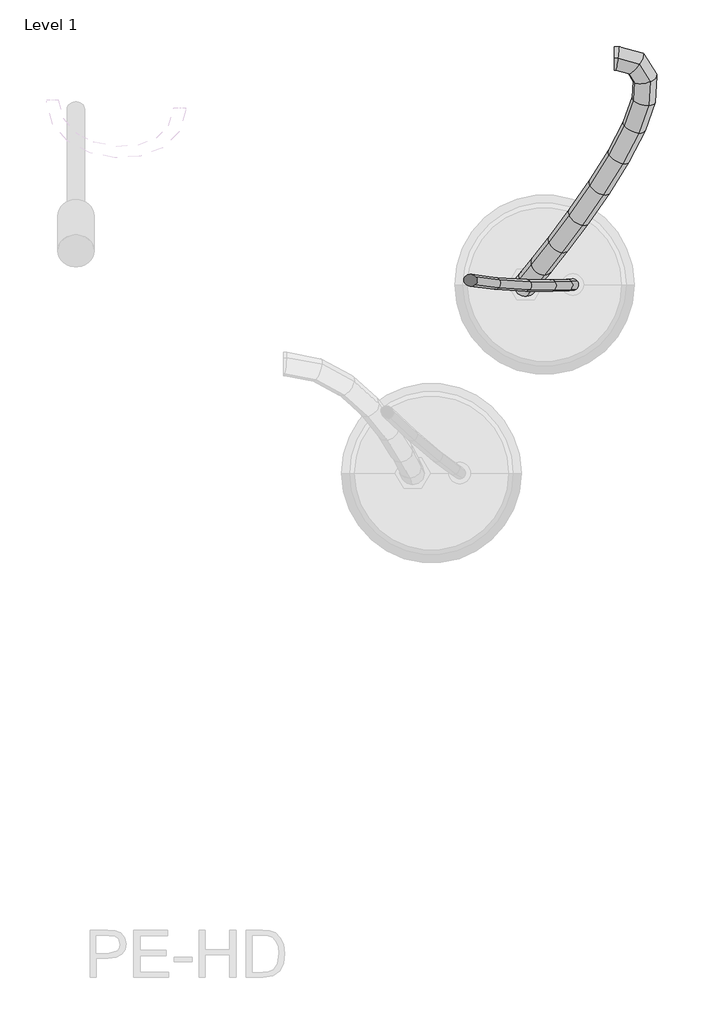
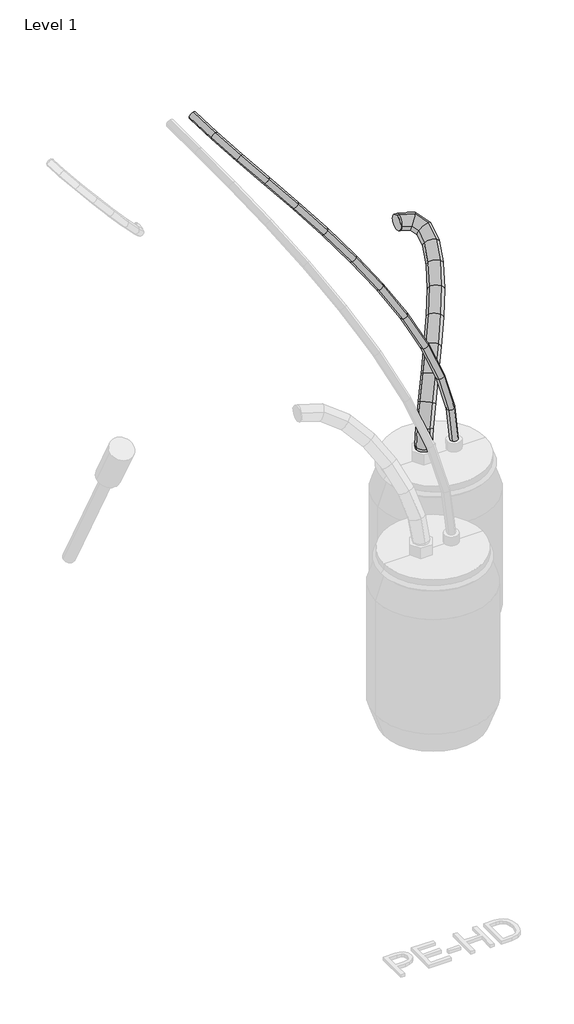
# One storey, part 3 of 6: 2 pipe segments.
"""IFC4 building model written with IfcOpenShell, lengths in millimetres."""

from ifc_helpers import new_model, si_unit, frame, origin, place, context, project, spatial, circle_curve, ellipse_curve, element, save
from ifc_brep_helpers import plane_surface, cylinder_surface, advanced_brep

model = new_model("IFC4")

# Units and contexts
model_context = context("Model", 3, world=origin())
ifc_project = project(units=[si_unit("LENGTHUNIT", "METRE", prefix="MILLI")], contexts=[model_context])

# Site, building, storey
site = spatial("IfcSite", under=ifc_project)
building = spatial("IfcBuilding", under=site)
storey = spatial("IfcBuildingStorey", under=building, Name="Level 1", Elevation=0.0)

# Pipe segments
placement = place(None, origin())
element("IfcPipeSegment", 1, ObjectType="Flex - Round", at=placement, inside=storey, context=model_context, shape_type="AdvancedBrep", body=[
    advanced_brep(
    [(3108.5, 3375.0, 1060.5), (3108.5, 3350.0, 1035.5), (3108.5, 3325.0, 1060.5), (3108.5, 3350.0, 1085.5), (3117.8643562, 3375.0, 1060.5), (3112.9429191, 3350.0, 1035.5), (3111.0264456, 3325.0, 1060.5), (3115.9478827, 3350.0, 1085.5), (2944.9252255, 2871.9321323, 633.6079188), (2921.9321323, 2845.0747745, 633.6079188), (2895.0747745, 2868.0678677, 633.6079188), (2918.0678677, 2894.9252255, 633.6079188), (3169.7238115, 3360.4918416, 1054.124297), (3147.4208919, 3340.3544708, 1031.2612105), (3139.0897616, 3317.1490299, 1057.049841), (3161.3926812, 3337.2864007, 1079.9129274), (3196.5446578, 3317.5509859, 1034.2536114), (3162.8129374, 3315.7114153, 1019.8577487), (3150.5614298, 3298.7825979, 1048.5508581), (3184.2931502, 3300.6221685, 1062.9467208), (3193.1262089, 3263.5064671, 1007.5549999), (3160.2018607, 3274.4311763, 999.4648376), (3148.1859341, 3261.2268161, 1029.9978716), (3181.1102824, 3250.302107, 1038.0880339), (3171.7591396, 3203.6840006, 975.6084981), (3140.7883675, 3220.0782361, 970.4391822), (3129.1071993, 3207.8111159, 1001.4727227), (3160.0779714, 3191.4168803, 1006.6420386), (3138.2799132, 3139.3285265, 937.8633615), (3108.7138647, 3158.4229931, 934.2777585), (3096.9233614, 3145.9457034, 965.1880325), (3126.4894099, 3126.8512368, 968.7736355), (3097.3471232, 3073.717806, 894.6788227), (3068.7507998, 3094.3666344, 892.1162902), (3056.4104266, 3081.0079641, 922.4464454), (3085.00675, 3060.3591357, 925.0089779), (3053.6310996, 3010.867398, 846.7966547), (3025.7219328, 3032.5041496, 844.9867649), (3012.3326643, 3017.6374855, 874.1680651), (3040.2418311, 2996.000734, 875.9779548), (3011.890215, 2955.0674353, 795.187706), (2984.4746931, 2977.3641002, 793.9881649), (2969.3663015, 2960.1992815, 821.0439198), (2996.7818234, 2937.9026165, 822.2434608), (2976.9595093, 2910.7422436, 741.1635252), (2949.8834954, 2933.469726, 740.4890707), (2932.1108977, 2912.9241726, 763.4243376), (2959.1869116, 2890.1966903, 764.0987922), (2953.4757599, 2882.0798045, 686.5138113), (2926.5809374, 2905.0284349, 686.2610124), (2905.3642751, 2880.279324, 701.1814967), (2932.2590976, 2857.3306935, 701.4342955), (2944.9252255, 2871.9321323, 637.1860304), (2918.0678677, 2894.9252255, 637.1493644), (2895.0747745, 2868.0678677, 641.8216718), (2921.9321323, 2845.0747745, 641.8583378)],
    [
        (0, 1, circle_curve(frame((3108.5, 3350.0, 1060.5), z_axis=(-1.0, 0.0, 0.0), x_axis=(0.0, 1.0, 0.0)), 25.0)),
        (1, 2, circle_curve(frame((3108.5, 3350.0, 1060.5), z_axis=(-1.0, 0.0, 0.0), x_axis=(0.0, 1.0, 0.0)), 25.0)),
        (2, 3, circle_curve(frame((3108.5, 3350.0, 1060.5), z_axis=(-1.0, 0.0, 0.0), x_axis=(0.0, 1.0, 0.0)), 25.0)),
        (3, 0, circle_curve(frame((3108.5, 3350.0, 1060.5), z_axis=(-1.0, 0.0, 0.0), x_axis=(0.0, 1.0, 0.0)), 25.0)),
        (0, 4),
        (4, 5, ellipse_curve(frame((3114.4454009, 3350.0, 1060.5), z_axis=(-0.9890259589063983, 0.13525742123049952, 0.05943973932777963), x_axis=(-0.14774184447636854, -0.9054516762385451, -0.39790653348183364)), 25.2773952, 25.0)),
        (5, 1),
        (5, 6, ellipse_curve(frame((3114.4454009, 3350.0, 1060.5), z_axis=(-0.9890259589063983, 0.13525742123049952, 0.05943973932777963), x_axis=(-0.14774184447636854, -0.9054516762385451, -0.39790653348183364)), 25.2773952, 25.0)),
        (6, 2),
        (6, 7, ellipse_curve(frame((3114.4454009, 3350.0, 1060.5), z_axis=(-0.9890259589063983, 0.13525742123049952, 0.05943973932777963), x_axis=(-0.14774184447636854, -0.9054516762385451, -0.39790653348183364)), 25.2773952, 25.0)),
        (7, 3),
        (7, 4, ellipse_curve(frame((3114.4454009, 3350.0, 1060.5), z_axis=(-0.9890259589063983, 0.13525742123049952, 0.05943973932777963), x_axis=(-0.14774184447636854, -0.9054516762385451, -0.39790653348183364)), 25.2773952, 25.0)),
        (8, 9, circle_curve(frame((2920.0, 2870.0, 633.6079188), z_axis=(0.0, 0.0, -1.0), x_axis=(0.9970090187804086, 0.07728529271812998, 0.0)), 25.0)),
        (9, 10, circle_curve(frame((2920.0, 2870.0, 633.6079188), z_axis=(0.0, 0.0, -1.0), x_axis=(0.9970090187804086, 0.07728529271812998, 0.0)), 25.0)),
        (10, 11, circle_curve(frame((2920.0, 2870.0, 633.6079188), z_axis=(0.0, 0.0, -1.0), x_axis=(0.9970090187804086, 0.07728529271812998, 0.0)), 25.0)),
        (11, 8, circle_curve(frame((2920.0, 2870.0, 633.6079188), z_axis=(0.0, 0.0, -1.0), x_axis=(0.9970090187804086, 0.07728529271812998, 0.0)), 25.0)),
        (4, 12),
        (12, 13, ellipse_curve(frame((3154.4067866, 3338.8204358, 1055.587069), z_axis=(-0.7801933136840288, 0.5689740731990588, 0.2599363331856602), x_axis=(-0.625497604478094, -0.7048473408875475, -0.33457879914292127)), 26.9128996, 25.0)),
        (13, 5),
        (13, 14, ellipse_curve(frame((3154.4067866, 3338.8204358, 1055.587069), z_axis=(-0.7801933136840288, 0.5689740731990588, 0.2599363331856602), x_axis=(-0.625497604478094, -0.7048473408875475, -0.33457879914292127)), 26.9128996, 25.0)),
        (14, 6),
        (14, 15, ellipse_curve(frame((3154.4067866, 3338.8204358, 1055.587069), z_axis=(-0.7801933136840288, 0.5689740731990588, 0.2599363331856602), x_axis=(-0.625497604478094, -0.7048473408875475, -0.33457879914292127)), 26.9128996, 25.0)),
        (15, 7),
        (15, 12, ellipse_curve(frame((3154.4067866, 3338.8204358, 1055.587069), z_axis=(-0.7801933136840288, 0.5689740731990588, 0.2599363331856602), x_axis=(-0.625497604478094, -0.7048473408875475, -0.33457879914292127)), 26.9128996, 25.0)),
        (12, 16),
        (16, 17, ellipse_curve(frame((3173.5530438, 3308.1667919, 1041.4022347), z_axis=(-0.2275270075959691, 0.8780973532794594, 0.42092338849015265), x_axis=(-0.9729181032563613, -0.18689635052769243, -0.13601514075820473)), 26.0617792, 25.0)),
        (17, 13),
        (17, 18, ellipse_curve(frame((3173.5530438, 3308.1667919, 1041.4022347), z_axis=(-0.2275270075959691, 0.8780973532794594, 0.42092338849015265), x_axis=(-0.9729181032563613, -0.18689635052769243, -0.13601514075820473)), 26.0617792, 25.0)),
        (18, 14),
        (18, 19, ellipse_curve(frame((3173.5530438, 3308.1667919, 1041.4022347), z_axis=(-0.2275270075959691, 0.8780973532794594, 0.42092338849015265), x_axis=(-0.9729181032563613, -0.18689635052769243, -0.13601514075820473)), 26.0617792, 25.0)),
        (19, 15),
        (19, 16, ellipse_curve(frame((3173.5530438, 3308.1667919, 1041.4022347), z_axis=(-0.2275270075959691, 0.8780973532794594, 0.42092338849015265), x_axis=(-0.9729181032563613, -0.18689635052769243, -0.13601514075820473)), 26.0617792, 25.0)),
        (16, 20),
        (20, 21, ellipse_curve(frame((3170.6560715, 3262.3666416, 1018.7764358), z_axis=(0.17997033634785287, 0.8750836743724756, 0.44926522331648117), x_axis=(-0.9761329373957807, 0.21531376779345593, -0.02836317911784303)), 25.1973857, 25.0)),
        (21, 17),
        (21, 22, ellipse_curve(frame((3170.6560715, 3262.3666416, 1018.7764358), z_axis=(0.17997033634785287, 0.8750836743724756, 0.44926522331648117), x_axis=(-0.9761329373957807, 0.21531376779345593, -0.02836317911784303)), 25.1973857, 25.0)),
        (22, 18),
        (22, 23, ellipse_curve(frame((3170.6560715, 3262.3666416, 1018.7764358), z_axis=(0.17997033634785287, 0.8750836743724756, 0.44926522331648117), x_axis=(-0.9761329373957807, 0.21531376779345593, -0.02836317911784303)), 25.1973857, 25.0)),
        (23, 19),
        (23, 20, ellipse_curve(frame((3170.6560715, 3262.3666416, 1018.7764358), z_axis=(0.17997033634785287, 0.8750836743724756, 0.44926522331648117), x_axis=(-0.9761329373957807, 0.21531376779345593, -0.02836317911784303)), 25.1973857, 25.0)),
        (20, 24),
        (24, 25, ellipse_curve(frame((3150.4331694, 3205.7475582, 988.5406104), z_axis=(0.35561974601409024, 0.815682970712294, 0.45628487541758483), x_axis=(-0.8902380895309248, 0.4442910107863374, -0.10040737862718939)), 25.0468967, 25.0)),
        (25, 21),
        (25, 26, ellipse_curve(frame((3150.4331694, 3205.7475582, 988.5406104), z_axis=(0.35561974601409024, 0.815682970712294, 0.45628487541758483), x_axis=(-0.8902380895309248, 0.4442910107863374, -0.10040737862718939)), 25.0468967, 25.0)),
        (26, 22),
        (26, 27, ellipse_curve(frame((3150.4331694, 3205.7475582, 988.5406104), z_axis=(0.35561974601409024, 0.815682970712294, 0.45628487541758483), x_axis=(-0.8902380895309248, 0.4442910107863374, -0.10040737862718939)), 25.0468967, 25.0)),
        (27, 23),
        (27, 24, ellipse_curve(frame((3150.4331694, 3205.7475582, 988.5406104), z_axis=(0.35561974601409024, 0.815682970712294, 0.45628487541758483), x_axis=(-0.8902380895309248, 0.4442910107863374, -0.10040737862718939)), 25.0468967, 25.0)),
        (24, 28),
        (28, 29, ellipse_curve(frame((3117.6016373, 3142.637115, 951.525697), z_axis=(0.4360760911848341, 0.7644016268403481, 0.47489766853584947), x_axis=(-0.7050996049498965, 0.6181300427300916, -0.34749071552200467)), 25.0174958, 25.0)),
        (29, 25),
        (29, 30, ellipse_curve(frame((3117.6016373, 3142.637115, 951.525697), z_axis=(0.4360760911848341, 0.7644016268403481, 0.47489766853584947), x_axis=(-0.7050996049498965, 0.6181300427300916, -0.34749071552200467)), 25.0174958, 25.0)),
        (30, 26),
        (30, 31, ellipse_curve(frame((3117.6016373, 3142.637115, 951.525697), z_axis=(0.4360760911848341, 0.7644016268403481, 0.47489766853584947), x_axis=(-0.7050996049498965, 0.6181300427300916, -0.34749071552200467)), 25.0174958, 25.0)),
        (31, 27),
        (31, 28, ellipse_curve(frame((3117.6016373, 3142.637115, 951.525697), z_axis=(0.4360760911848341, 0.7644016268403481, 0.47489766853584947), x_axis=(-0.7050996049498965, 0.6181300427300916, -0.34749071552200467)), 25.0174958, 25.0)),
        (28, 32),
        (32, 33, ellipse_curve(frame((3076.8787749, 3077.362885, 908.562634), z_axis=(0.47338500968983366, 0.7187754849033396, 0.5091840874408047), x_axis=(-0.33499970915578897, 0.6815272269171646, -0.650611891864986)), 25.0134723, 25.0)),
        (33, 29),
        (33, 34, ellipse_curve(frame((3076.8787749, 3077.362885, 908.562634), z_axis=(0.47338500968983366, 0.7187754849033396, 0.5091840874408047), x_axis=(-0.33499970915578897, 0.6815272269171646, -0.650611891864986)), 25.0134723, 25.0)),
        (34, 30),
        (34, 35, ellipse_curve(frame((3076.8787749, 3077.362885, 908.562634), z_axis=(0.47338500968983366, 0.7187754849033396, 0.5091840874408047), x_axis=(-0.33499970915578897, 0.6815272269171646, -0.650611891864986)), 25.0134723, 25.0)),
        (35, 31),
        (35, 32, ellipse_curve(frame((3076.8787749, 3077.362885, 908.562634), z_axis=(0.47338500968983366, 0.7187754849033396, 0.5091840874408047), x_axis=(-0.33499970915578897, 0.6815272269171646, -0.650611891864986)), 25.0134723, 25.0)),
        (32, 36),
        (36, 37, ellipse_curve(frame((3032.981882, 3014.2524418, 860.4823599), z_axis=(0.48316315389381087, 0.6703415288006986, 0.5632012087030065), x_axis=(0.03308704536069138, 0.6288291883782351, -0.7768391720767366)), 25.0218384, 25.0)),
        (37, 33),
        (37, 38, ellipse_curve(frame((3032.981882, 3014.2524418, 860.4823599), z_axis=(0.48316315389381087, 0.6703415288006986, 0.5632012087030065), x_axis=(0.03308704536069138, 0.6288291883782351, -0.7768391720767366)), 25.0218384, 25.0)),
        (38, 34),
        (38, 39, ellipse_curve(frame((3032.981882, 3014.2524418, 860.4823599), z_axis=(0.48316315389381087, 0.6703415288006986, 0.5632012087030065), x_axis=(0.03308704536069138, 0.6288291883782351, -0.7768391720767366)), 25.0218384, 25.0)),
        (39, 35),
        (39, 36, ellipse_curve(frame((3032.981882, 3014.2524418, 860.4823599), z_axis=(0.48316315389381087, 0.6703415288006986, 0.5632012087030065), x_axis=(0.03308704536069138, 0.6288291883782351, -0.7768391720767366)), 25.0218384, 25.0)),
        (36, 40),
        (40, 41, ellipse_curve(frame((2990.6282582, 2957.6333584, 808.1158129), z_axis=(0.46518266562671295, 0.6066604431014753, 0.6446457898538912), x_axis=(0.26862880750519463, 0.5971515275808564, -0.7558099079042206)), 25.0509419, 25.0)),
        (41, 37),
        (41, 42, ellipse_curve(frame((2990.6282582, 2957.6333584, 808.1158129), z_axis=(0.46518266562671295, 0.6066604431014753, 0.6446457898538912), x_axis=(0.26862880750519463, 0.5971515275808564, -0.7558099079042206)), 25.0509419, 25.0)),
        (42, 38),
        (42, 43, ellipse_curve(frame((2990.6282582, 2957.6333584, 808.1158129), z_axis=(0.46518266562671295, 0.6066604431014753, 0.6446457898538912), x_axis=(0.26862880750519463, 0.5971515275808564, -0.7558099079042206)), 25.0509419, 25.0)),
        (43, 39),
        (43, 40, ellipse_curve(frame((2990.6282582, 2957.6333584, 808.1158129), z_axis=(0.46518266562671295, 0.6066604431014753, 0.6446457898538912), x_axis=(0.26862880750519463, 0.5971515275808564, -0.7558099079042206)), 25.0509419, 25.0)),
        (40, 44),
        (44, 45, ellipse_curve(frame((2954.5352035, 2911.8332081, 752.2939314), z_axis=(0.4036504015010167, 0.5035507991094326, 0.7638736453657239), x_axis=(0.43270086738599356, 0.6305676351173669, -0.6443247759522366)), 25.1407571, 25.0)),
        (45, 41),
        (45, 46, ellipse_curve(frame((2954.5352035, 2911.8332081, 752.2939314), z_axis=(0.4036504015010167, 0.5035507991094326, 0.7638736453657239), x_axis=(0.43270086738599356, 0.6305676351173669, -0.6443247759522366)), 25.1407571, 25.0)),
        (46, 42),
        (46, 47, ellipse_curve(frame((2954.5352035, 2911.8332081, 752.2939314), z_axis=(0.4036504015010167, 0.5035507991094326, 0.7638736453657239), x_axis=(0.43270086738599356, 0.6305676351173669, -0.6443247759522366)), 25.1407571, 25.0)),
        (47, 43),
        (47, 44, ellipse_curve(frame((2954.5352035, 2911.8332081, 752.2939314), z_axis=(0.4036504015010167, 0.5035507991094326, 0.7638736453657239), x_axis=(0.43270086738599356, 0.6305676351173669, -0.6443247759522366)), 25.1407571, 25.0)),
        (44, 48),
        (48, 49, ellipse_curve(frame((2929.4200175, 2881.1795642, 693.847654), z_axis=(0.2651977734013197, 0.320816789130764, 0.9092561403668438), x_axis=(0.5678783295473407, 0.7101398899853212, -0.41619171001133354)), 25.3507508, 25.0)),
        (49, 45),
        (49, 50, ellipse_curve(frame((2929.4200175, 2881.1795642, 693.847654), z_axis=(0.2651977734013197, 0.320816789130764, 0.9092561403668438), x_axis=(0.5678783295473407, 0.7101398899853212, -0.41619171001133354)), 25.3507508, 25.0)),
        (50, 46),
        (50, 51, ellipse_curve(frame((2929.4200175, 2881.1795642, 693.847654), z_axis=(0.2651977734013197, 0.320816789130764, 0.9092561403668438), x_axis=(0.5678783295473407, 0.7101398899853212, -0.41619171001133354)), 25.3507508, 25.0)),
        (51, 47),
        (51, 48, ellipse_curve(frame((2929.4200175, 2881.1795642, 693.847654), z_axis=(0.2651977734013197, 0.320816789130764, 0.9092561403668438), x_axis=(0.5678783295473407, 0.7101398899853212, -0.41619171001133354)), 25.3507508, 25.0)),
        (48, 52),
        (52, 53, ellipse_curve(frame((2920.0, 2870.0, 639.5038511), z_axis=(0.08442278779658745, 0.1001919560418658, 0.9913800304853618), x_axis=(0.6388073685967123, 0.7581289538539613, -0.13101769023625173)), 25.217373, 25.0)),
        (53, 49),
        (53, 54, ellipse_curve(frame((2920.0, 2870.0, 639.5038511), z_axis=(0.08442278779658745, 0.1001919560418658, 0.9913800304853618), x_axis=(0.6388073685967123, 0.7581289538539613, -0.13101769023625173)), 25.217373, 25.0)),
        (54, 50),
        (54, 55, ellipse_curve(frame((2920.0, 2870.0, 639.5038511), z_axis=(0.08442278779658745, 0.1001919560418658, 0.9913800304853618), x_axis=(0.6388073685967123, 0.7581289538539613, -0.13101769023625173)), 25.217373, 25.0)),
        (55, 51),
        (55, 52, ellipse_curve(frame((2920.0, 2870.0, 639.5038511), z_axis=(0.08442278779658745, 0.1001919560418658, 0.9913800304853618), x_axis=(0.6388073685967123, 0.7581289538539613, -0.13101769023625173)), 25.217373, 25.0)),
        (52, 8),
        (11, 53),
        (10, 54),
        (9, 55),
    ],
    [
        plane_surface(frame((3108.5, 3350.0, 1035.5), z_axis=(-1.0, 0.0, 0.0), x_axis=(0.0, 1.0, 0.0))),
        cylinder_surface(frame((3108.5, 3350.0, 1060.5), z_axis=(-1.0, 0.0, 0.0), x_axis=(0.0, 1.0, 0.0)), 25.0),
        plane_surface(frame((2920.0, 2845.0, 633.6079188), z_axis=(0.0, 0.0, -1.0), x_axis=(-1.0, 0.0, 0.0))),
        cylinder_surface(frame((3114.4454009, 3350.0, 1060.5), z_axis=(-0.9563446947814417, 0.2675462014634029, 0.11757489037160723), x_axis=(0.2675462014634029, 0.9634108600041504, -0.01607933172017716)), 25.0),
        cylinder_surface(frame((3154.4067866, 3338.8204358, 1055.587069), z_axis=(-0.4931336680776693, 0.7895195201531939, 0.3653465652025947), x_axis=(0.7906477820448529, 0.5819268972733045, -0.19036063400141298)), 25.0),
        cylinder_surface(frame((3173.5530438, 3308.1667919, 1041.4022347), z_axis=(0.05661894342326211, 0.8951263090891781, 0.442202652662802), x_axis=(0.9048515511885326, 0.14117909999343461, -0.40163681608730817)), 25.0),
        cylinder_surface(frame((3170.6560715, 3262.3666416, 1018.7764358), z_axis=(0.30050210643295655, 0.8413309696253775, 0.4492890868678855), x_axis=(0.8667163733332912, -0.04424852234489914, -0.4968347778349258)), 25.0),
        cylinder_surface(frame((3150.4331694, 3205.7475582, 988.5406104), z_axis=(0.40940569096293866, 0.7869804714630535, 0.4615720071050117), x_axis=(0.8344044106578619, -0.11836228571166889, -0.5382932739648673)), 25.0),
        cylinder_surface(frame((3117.6016373, 3142.637115, 951.525697), z_axis=(0.4621365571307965, 0.7407536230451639, 0.48755909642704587), x_axis=(0.8189208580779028, -0.1455035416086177, -0.5551552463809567)), 25.0),
        cylinder_surface(frame((3076.8787749, 3077.362885, 908.562634), z_axis=(0.48412352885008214, 0.69602307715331, 0.5302605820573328), x_axis=(0.8185381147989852, -0.14608468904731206, -0.5555669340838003)), 25.0),
        cylinder_surface(frame((3032.981882, 3014.2524418, 860.4823599), z_axis=(0.4813593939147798, 0.6434898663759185, 0.595158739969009), x_axis=(0.8333568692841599, -0.12552511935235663, -0.5382933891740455)), 25.0),
        cylinder_surface(frame((2990.6282582, 2957.6333584, 808.1158129), z_axis=(0.4471140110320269, 0.5673636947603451, 0.6915110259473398), x_axis=(0.8663816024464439, -0.08245644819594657, -0.4925280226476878)), 25.0),
        cylinder_surface(frame((2954.5352035, 2911.8332081, 752.2939314), z_axis=(0.35566690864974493, 0.4340993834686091, 0.827682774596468), x_axis=(0.9213062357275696, -0.013938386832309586, -0.38858788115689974)), 25.0),
        cylinder_surface(frame((2929.4200175, 2881.1795642, 693.847654), z_axis=(0.1673901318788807, 0.19865660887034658, 0.9656687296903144), x_axis=(0.981489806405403, 0.05886727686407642, -0.1822427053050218)), 25.0),
        cylinder_surface(frame((2920.0, 2870.0, 639.5038511), z_axis=(0.0, 0.0, 1.0), x_axis=(0.9970090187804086, 0.07728529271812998, 0.0)), 25.0),
    ],
    [
        (0, [[1, 2, 3, 4]]),
        (1, [[-1, 5, 6, 7]]),
        (1, [[-2, -7, 8, 9]]),
        (1, [[-3, -9, 10, 11]]),
        (1, [[-4, -11, 12, -5]]),
        (2, [[13, 14, 15, 16]]),
        (3, [[-6, 17, 18, 19]]),
        (3, [[-8, -19, 20, 21]]),
        (3, [[-10, -21, 22, 23]]),
        (3, [[-12, -23, 24, -17]]),
        (4, [[-18, 25, 26, 27]]),
        (4, [[-20, -27, 28, 29]]),
        (4, [[-22, -29, 30, 31]]),
        (4, [[-24, -31, 32, -25]]),
        (5, [[-26, 33, 34, 35]]),
        (5, [[-28, -35, 36, 37]]),
        (5, [[-30, -37, 38, 39]]),
        (5, [[-32, -39, 40, -33]]),
        (6, [[-34, 41, 42, 43]]),
        (6, [[-36, -43, 44, 45]]),
        (6, [[-38, -45, 46, 47]]),
        (6, [[-40, -47, 48, -41]]),
        (7, [[-42, 49, 50, 51]]),
        (7, [[-44, -51, 52, 53]]),
        (7, [[-46, -53, 54, 55]]),
        (7, [[-48, -55, 56, -49]]),
        (8, [[-50, 57, 58, 59]]),
        (8, [[-52, -59, 60, 61]]),
        (8, [[-54, -61, 62, 63]]),
        (8, [[-56, -63, 64, -57]]),
        (9, [[-58, 65, 66, 67]]),
        (9, [[-60, -67, 68, 69]]),
        (9, [[-62, -69, 70, 71]]),
        (9, [[-64, -71, 72, -65]]),
        (10, [[-66, 73, 74, 75]]),
        (10, [[-68, -75, 76, 77]]),
        (10, [[-70, -77, 78, 79]]),
        (10, [[-72, -79, 80, -73]]),
        (11, [[-74, 81, 82, 83]]),
        (11, [[-76, -83, 84, 85]]),
        (11, [[-78, -85, 86, 87]]),
        (11, [[-80, -87, 88, -81]]),
        (12, [[-82, 89, 90, 91]]),
        (12, [[-84, -91, 92, 93]]),
        (12, [[-86, -93, 94, 95]]),
        (12, [[-88, -95, 96, -89]]),
        (13, [[-90, 97, 98, 99]]),
        (13, [[-92, -99, 100, 101]]),
        (13, [[-94, -101, 102, 103]]),
        (13, [[-96, -103, 104, -97]]),
        (14, [[-98, 105, -16, 106]]),
        (14, [[-100, -106, -15, 107]]),
        (14, [[-102, -107, -14, 108]]),
        (14, [[-104, -108, -13, -105]]),
    ],
),
])
element("IfcPipeSegment", 2, ObjectType="Flex - Round", at=placement, inside=storey, context=model_context, shape_type="AdvancedBrep", body=[
    advanced_brep(
    [(2397.4063751, 3263.5270422, 1740.0), (2384.8022058, 3263.6069691, 1727.6053024), (2372.5936249, 3260.4729578, 1740.0), (2385.1977942, 3260.3930309, 1752.3946976), (2409.7052856, 3163.605185, 1726.8488936), (2397.0821358, 3163.8393179, 1714.4744917), (2385.2831404, 3157.3776512, 1726.4312235), (2397.9062902, 3157.1435183, 1738.8056254), (3029.5901614, 2877.9427374, 628.7264329), (3027.9042558, 2860.3483018, 628.4205578), (3010.4098386, 2862.0572626, 626.5431074), (3012.0957442, 2879.6516982, 626.8489825), (2443.2082781, 3083.5280024, 1689.9630517), (2430.4434115, 3084.1008597, 1677.7446759), (2420.8657959, 3072.3297618, 1687.2557318), (2433.6306625, 3071.7569045, 1699.4741075), (2494.2774595, 3019.3801596, 1631.6066771), (2481.2444729, 3020.2898016, 1619.6946801), (2474.1600405, 3005.3870239, 1626.3567941), (2487.1930271, 3004.4773819, 1638.268791), (2558.8793222, 2969.5473767, 1554.4223564), (2545.5008168, 2970.723546, 1542.9231745), (2540.3799371, 2954.306117, 1547.2392961), (2553.7584424, 2953.1299477, 1558.7384779), (2632.6246275, 2932.4938759, 1461.4335124), (2618.8519849, 2933.8680804, 1450.4313163), (2615.0952799, 2916.7652186, 1453.0272872), (2628.8679225, 2915.3910141, 1464.0294833), (2711.0282834, 2906.5058762, 1355.7758673), (2696.8152409, 2908.0260575, 1345.3671591), (2693.9717166, 2890.6205091, 1346.7325175), (2708.1847591, 2889.1003278, 1357.1412256), (2789.6181469, 2889.7522644, 1240.5711778), (2774.9084734, 2891.3783164, 1230.8904798), (2772.6619457, 2873.8455015, 1231.3807024), (2787.3716192, 2872.2194495, 1241.0614004), (2863.9471177, 2880.3487193, 1118.9031436), (2848.6707529, 2882.0464648, 1110.1500543), (2846.7936231, 2864.4669165, 1110.0356147), (2862.0699878, 2862.769171, 1118.788704), (2929.5835705, 2876.3884885, 993.8121088), (2913.6604269, 2878.125258, 986.2916613), (2911.9789295, 2860.533906, 985.8043823), (2927.9020731, 2858.7971366, 993.3248297), (2982.0942737, 2875.9547949, 868.2836775), (2965.4561846, 2877.6974692, 862.472329), (2963.8316522, 2860.1056468, 861.8488734), (2980.4697413, 2858.3629725, 867.6602218), (3017.0072747, 2877.1230494, 745.2298876), (2999.6725454, 2878.8424128, 741.8739057), (2998.0042994, 2861.2491276, 741.4045222), (3015.3390287, 2859.5297642, 744.7605041)],
    [
        (0, 1, circle_curve(frame((2385.0, 3262.0, 1740.0), z_axis=(-0.12113425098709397, 0.9841489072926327, 0.12952768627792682), x_axis=(0.992510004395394, 0.12216337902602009, 0.0)), 12.5)),
        (1, 2, circle_curve(frame((2385.0, 3262.0, 1740.0), z_axis=(-0.12113425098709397, 0.9841489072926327, 0.12952768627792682), x_axis=(0.992510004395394, 0.12216337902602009, 0.0)), 12.5)),
        (2, 3, circle_curve(frame((2385.0, 3262.0, 1740.0), z_axis=(-0.12113425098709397, 0.9841489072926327, 0.12952768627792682), x_axis=(0.992510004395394, 0.12216337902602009, 0.0)), 12.5)),
        (3, 0, circle_curve(frame((2385.0, 3262.0, 1740.0), z_axis=(-0.12113425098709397, 0.9841489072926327, 0.12952768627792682), x_axis=(0.992510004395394, 0.12216337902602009, 0.0)), 12.5)),
        (0, 4),
        (4, 5, ellipse_curve(frame((2397.494213, 3160.4914181, 1726.6400586), z_axis=(-0.2425057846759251, 0.9332446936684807, 0.26503827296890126), x_axis=(0.6223746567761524, 0.35922238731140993, -0.695420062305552)), 12.7270856, 12.5)),
        (5, 1),
        (5, 6, ellipse_curve(frame((2397.494213, 3160.4914181, 1726.6400586), z_axis=(-0.2425057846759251, 0.9332446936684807, 0.26503827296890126), x_axis=(0.6223746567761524, 0.35922238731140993, -0.695420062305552)), 12.7270856, 12.5)),
        (6, 2),
        (6, 7, ellipse_curve(frame((2397.494213, 3160.4914181, 1726.6400586), z_axis=(-0.2425057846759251, 0.9332446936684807, 0.26503827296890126), x_axis=(0.6223746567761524, 0.35922238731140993, -0.695420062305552)), 12.7270856, 12.5)),
        (7, 3),
        (7, 4, ellipse_curve(frame((2397.494213, 3160.4914181, 1726.6400586), z_axis=(-0.2425057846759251, 0.9332446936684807, 0.26503827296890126), x_axis=(0.6223746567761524, 0.35922238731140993, -0.695420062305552)), 12.7270856, 12.5)),
        (8, 9, circle_curve(frame((3020.0, 2870.0, 627.6347701), z_axis=(0.10737730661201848, 0.0069948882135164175, -0.9941937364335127), x_axis=(0.7672129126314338, 0.6354189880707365, 0.08733301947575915)), 12.5)),
        (9, 10, circle_curve(frame((3020.0, 2870.0, 627.6347701), z_axis=(0.10737730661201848, 0.0069948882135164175, -0.9941937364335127), x_axis=(0.7672129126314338, 0.6354189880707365, 0.08733301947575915)), 12.5)),
        (10, 11, circle_curve(frame((3020.0, 2870.0, 627.6347701), z_axis=(0.10737730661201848, 0.0069948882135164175, -0.9941937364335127), x_axis=(0.7672129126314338, 0.6354189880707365, 0.08733301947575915)), 12.5)),
        (11, 8, circle_curve(frame((3020.0, 2870.0, 627.6347701), z_axis=(0.10737730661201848, 0.0069948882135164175, -0.9941937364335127), x_axis=(0.7672129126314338, 0.6354189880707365, 0.08733301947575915)), 12.5)),
        (4, 12),
        (12, 13, ellipse_curve(frame((2432.037037, 3077.9288821, 1688.6093917), z_axis=(-0.4370292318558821, 0.7530321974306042, 0.4918820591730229), x_axis=(0.47293887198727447, 0.6575576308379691, -0.5864697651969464)), 12.6650768, 12.5)),
        (13, 5),
        (13, 14, ellipse_curve(frame((2432.037037, 3077.9288821, 1688.6093917), z_axis=(-0.4370292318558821, 0.7530321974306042, 0.4918820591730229), x_axis=(0.47293887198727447, 0.6575576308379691, -0.5864697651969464)), 12.6650768, 12.5)),
        (14, 6),
        (14, 15, ellipse_curve(frame((2432.037037, 3077.9288821, 1688.6093917), z_axis=(-0.4370292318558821, 0.7530321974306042, 0.4918820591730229), x_axis=(0.47293887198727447, 0.6575576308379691, -0.5864697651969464)), 12.6650768, 12.5)),
        (15, 7),
        (15, 12, ellipse_curve(frame((2432.037037, 3077.9288821, 1688.6093917), z_axis=(-0.4370292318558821, 0.7530321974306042, 0.4918820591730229), x_axis=(0.47293887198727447, 0.6575576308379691, -0.5864697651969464)), 12.6650768, 12.5)),
        (12, 16),
        (16, 17, ellipse_curve(frame((2484.21875, 3012.3835918, 1628.9817356), z_axis=(-0.5449861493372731, 0.5442082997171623, 0.6378302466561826), x_axis=(0.2925443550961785, 0.8363441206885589, -0.463623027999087)), 12.5846651, 12.5)),
        (17, 13),
        (17, 18, ellipse_curve(frame((2484.21875, 3012.3835918, 1628.9817356), z_axis=(-0.5449861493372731, 0.5442082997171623, 0.6378302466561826), x_axis=(0.2925443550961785, 0.8363441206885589, -0.463623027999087)), 12.5846651, 12.5)),
        (18, 14),
        (18, 19, ellipse_curve(frame((2484.21875, 3012.3835918, 1628.9817356), z_axis=(-0.5449861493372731, 0.5442082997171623, 0.6378302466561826), x_axis=(0.2925443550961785, 0.8363441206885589, -0.463623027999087)), 12.5846651, 12.5)),
        (19, 15),
        (19, 16, ellipse_curve(frame((2484.21875, 3012.3835918, 1628.9817356), z_axis=(-0.5449861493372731, 0.5442082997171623, 0.6378302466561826), x_axis=(0.2925443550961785, 0.8363441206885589, -0.463623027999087)), 12.5846651, 12.5)),
        (16, 20),
        (20, 21, ellipse_curve(frame((2549.6296296, 2961.9267469, 1550.8308262), z_axis=(-0.5860170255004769, 0.3720347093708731, 0.7198431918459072), x_axis=(0.11294775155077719, 0.9171992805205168, -0.3820841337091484)), 12.5396023, 12.5)),
        (21, 17),
        (21, 22, ellipse_curve(frame((2549.6296296, 2961.9267469, 1550.8308262), z_axis=(-0.5860170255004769, 0.3720347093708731, 0.7198431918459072), x_axis=(0.11294775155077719, 0.9171992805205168, -0.3820841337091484)), 12.5396023, 12.5)),
        (22, 18),
        (22, 23, ellipse_curve(frame((2549.6296296, 2961.9267469, 1550.8308262), z_axis=(-0.5860170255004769, 0.3720347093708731, 0.7198431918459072), x_axis=(0.11294775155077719, 0.9171992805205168, -0.3820841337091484)), 12.5396023, 12.5)),
        (23, 19),
        (23, 20, ellipse_curve(frame((2549.6296296, 2961.9267469, 1550.8308262), z_axis=(-0.5860170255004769, 0.3720347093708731, 0.7198431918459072), x_axis=(0.11294775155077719, 0.9171992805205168, -0.3820841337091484)), 12.5396023, 12.5)),
        (20, 24),
        (24, 25, ellipse_curve(frame((2623.8599537, 2924.6295472, 1457.2303998), z_axis=(-0.5897990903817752, 0.2462864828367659, 0.7690773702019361), x_axis=(-0.07612975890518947, 0.9311599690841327, -0.3565744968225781)), 12.519629, 12.5)),
        (25, 21),
        (25, 26, ellipse_curve(frame((2623.8599537, 2924.6295472, 1457.2303998), z_axis=(-0.5897990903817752, 0.2462864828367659, 0.7690773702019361), x_axis=(-0.07612975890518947, 0.9311599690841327, -0.3565744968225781)), 12.519629, 12.5)),
        (26, 22),
        (26, 27, ellipse_curve(frame((2623.8599537, 2924.6295472, 1457.2303998), z_axis=(-0.5897990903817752, 0.2462864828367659, 0.7690773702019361), x_axis=(-0.07612975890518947, 0.9311599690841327, -0.3565744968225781)), 12.519629, 12.5)),
        (27, 23),
        (27, 24, ellipse_curve(frame((2623.8599537, 2924.6295472, 1457.2303998), z_axis=(-0.5897990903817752, 0.2462864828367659, 0.7690773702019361), x_axis=(-0.07612975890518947, 0.9311599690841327, -0.3565744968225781)), 12.519629, 12.5)),
        (24, 28),
        (28, 29, ellipse_curve(frame((2702.5, 2898.5631927, 1351.2541924), z_axis=(-0.5725817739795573, 0.15666885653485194, 0.8047390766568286), x_axis=(-0.29520951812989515, 0.8763307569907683, -0.3806517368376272)), 12.5113086, 12.5)),
        (29, 25),
        (29, 30, ellipse_curve(frame((2702.5, 2898.5631927, 1351.2541924), z_axis=(-0.5725817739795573, 0.15666885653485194, 0.8047390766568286), x_axis=(-0.29520951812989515, 0.8763307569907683, -0.3806517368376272)), 12.5113086, 12.5)),
        (30, 26),
        (30, 31, ellipse_curve(frame((2702.5, 2898.5631927, 1351.2541924), z_axis=(-0.5725817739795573, 0.15666885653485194, 0.8047390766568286), x_axis=(-0.29520951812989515, 0.8763307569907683, -0.3806517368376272)), 12.5113086, 12.5)),
        (31, 27),
        (31, 28, ellipse_curve(frame((2702.5, 2898.5631927, 1351.2541924), z_axis=(-0.5725817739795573, 0.15666885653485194, 0.8047390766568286), x_axis=(-0.29520951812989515, 0.8763307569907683, -0.3806517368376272)), 12.5113086, 12.5)),
        (28, 32),
        (32, 33, ellipse_curve(frame((2781.1400463, 2881.798883, 1235.9759401), z_axis=(-0.540220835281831, 0.09260630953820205, 0.8364122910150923), x_axis=(-0.5357883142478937, 0.7285869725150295, -0.42672228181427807)), 12.5084223, 12.5)),
        (33, 29),
        (33, 34, ellipse_curve(frame((2781.1400463, 2881.798883, 1235.9759401), z_axis=(-0.540220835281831, 0.09260630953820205, 0.8364122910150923), x_axis=(-0.5357883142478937, 0.7285869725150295, -0.42672228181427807)), 12.5084223, 12.5)),
        (34, 30),
        (34, 35, ellipse_curve(frame((2781.1400463, 2881.798883, 1235.9759401), z_axis=(-0.540220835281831, 0.09260630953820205, 0.8364122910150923), x_axis=(-0.5357883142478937, 0.7285869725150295, -0.42672228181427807)), 12.5084223, 12.5)),
        (35, 31),
        (35, 32, ellipse_curve(frame((2781.1400463, 2881.798883, 1235.9759401), z_axis=(-0.540220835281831, 0.09260630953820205, 0.8364122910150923), x_axis=(-0.5357883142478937, 0.7285869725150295, -0.42672228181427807)), 12.5084223, 12.5)),
        (32, 36),
        (36, 37, ellipse_curve(frame((2855.3703704, 2872.4078179, 1114.4693791), z_axis=(-0.49267341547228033, 0.0469505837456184, 0.8689468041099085), x_axis=(-0.7404770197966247, 0.5019225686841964, -0.4469535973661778)), 12.5088661, 12.5)),
        (37, 33),
        (37, 38, ellipse_curve(frame((2855.3703704, 2872.4078179, 1114.4693791), z_axis=(-0.49267341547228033, 0.0469505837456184, 0.8689468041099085), x_axis=(-0.7404770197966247, 0.5019225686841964, -0.4469535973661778)), 12.5088661, 12.5)),
        (38, 34),
        (38, 39, ellipse_curve(frame((2855.3703704, 2872.4078179, 1114.4693791), z_axis=(-0.49267341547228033, 0.0469505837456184, 0.8689468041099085), x_axis=(-0.7404770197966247, 0.5019225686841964, -0.4469535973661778)), 12.5088661, 12.5)),
        (39, 35),
        (39, 36, ellipse_curve(frame((2855.3703704, 2872.4078179, 1114.4693791), z_axis=(-0.49267341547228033, 0.0469505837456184, 0.8689468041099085), x_axis=(-0.7404770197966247, 0.5019225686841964, -0.4469535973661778)), 12.5088661, 12.5)),
        (36, 40),
        (40, 41, ellipse_curve(frame((2920.78125, 2868.4611973, 989.8082455), z_axis=(-0.42561564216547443, 0.015621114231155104, 0.9047692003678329), x_axis=(-0.868269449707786, 0.2745640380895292, -0.4131860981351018)), 12.5128042, 12.5)),
        (41, 37),
        (41, 42, ellipse_curve(frame((2920.78125, 2868.4611973, 989.8082455), z_axis=(-0.42561564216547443, 0.015621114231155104, 0.9047692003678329), x_axis=(-0.868269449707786, 0.2745640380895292, -0.4131860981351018)), 12.5128042, 12.5)),
        (42, 38),
        (42, 43, ellipse_curve(frame((2920.78125, 2868.4611973, 989.8082455), z_axis=(-0.42561564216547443, 0.015621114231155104, 0.9047692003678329), x_axis=(-0.868269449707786, 0.2745640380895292, -0.4131860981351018)), 12.5128042, 12.5)),
        (43, 39),
        (43, 40, ellipse_curve(frame((2920.78125, 2868.4611973, 989.8082455), z_axis=(-0.42561564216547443, 0.015621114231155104, 0.9047692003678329), x_axis=(-0.868269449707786, 0.2745640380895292, -0.4131860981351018)), 12.5128042, 12.5)),
        (40, 44),
        (44, 45, ellipse_curve(frame((2972.962963, 2868.0302209, 865.0662754), z_axis=(-0.3300211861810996, -0.002978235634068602, 0.943968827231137), x_axis=(-0.9391100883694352, 0.10241402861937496, -0.3279994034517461)), 12.5226737, 12.5)),
        (45, 41),
        (45, 46, ellipse_curve(frame((2972.962963, 2868.0302209, 865.0662754), z_axis=(-0.3300211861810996, -0.002978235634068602, 0.943968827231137), x_axis=(-0.9391100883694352, 0.10241402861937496, -0.3279994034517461)), 12.5226737, 12.5)),
        (46, 42),
        (46, 47, ellipse_curve(frame((2972.962963, 2868.0302209, 865.0662754), z_axis=(-0.3300211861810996, -0.002978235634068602, 0.943968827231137), x_axis=(-0.9391100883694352, 0.10241402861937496, -0.3279994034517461)), 12.5226737, 12.5)),
        (47, 43),
        (47, 44, ellipse_curve(frame((2972.962963, 2868.0302209, 865.0662754), z_axis=(-0.3300211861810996, -0.002978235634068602, 0.943968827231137), x_axis=(-0.9391100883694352, 0.10241402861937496, -0.3279994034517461)), 12.5226737, 12.5)),
        (44, 48),
        (48, 49, ellipse_curve(frame((3007.505787, 2869.1860885, 743.3172049), z_axis=(-0.19083697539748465, -0.008092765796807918, 0.9815883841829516), x_axis=(-0.9815220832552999, -0.012675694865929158, -0.19092859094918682)), 12.5446943, 12.5)),
        (49, 45),
        (49, 50, ellipse_curve(frame((3007.505787, 2869.1860885, 743.3172049), z_axis=(-0.19083697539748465, -0.008092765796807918, 0.9815883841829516), x_axis=(-0.9815220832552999, -0.012675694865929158, -0.19092859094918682)), 12.5446943, 12.5)),
        (50, 46),
        (50, 51, ellipse_curve(frame((3007.505787, 2869.1860885, 743.3172049), z_axis=(-0.19083697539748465, -0.008092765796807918, 0.9815883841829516), x_axis=(-0.9815220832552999, -0.012675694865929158, -0.19092859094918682)), 12.5446943, 12.5)),
        (51, 47),
        (51, 48, ellipse_curve(frame((3007.505787, 2869.1860885, 743.3172049), z_axis=(-0.19083697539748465, -0.008092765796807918, 0.9815883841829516), x_axis=(-0.9815220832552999, -0.012675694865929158, -0.19092859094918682)), 12.5446943, 12.5)),
        (48, 8),
        (11, 49),
        (10, 50),
        (9, 51),
    ],
    [
        plane_surface(frame((2385.0, 3263.6311073, 1727.6068774), z_axis=(-0.121134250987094, 0.9841489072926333, 0.12952768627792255), x_axis=(0.9926361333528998, 0.12009853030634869, 0.01580663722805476))),
        cylinder_surface(frame((2385.0, 3262.0, 1740.0), z_axis=(-0.12113425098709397, 0.9841489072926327, 0.12952768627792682), x_axis=(0.992510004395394, 0.12216337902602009, 0.0)), 12.5),
        plane_surface(frame((3020.0, 2882.4996906, 627.7227147), z_axis=(0.10737730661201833, 0.00699488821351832, -0.9941937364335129), x_axis=(0.9942183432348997, -0.0007554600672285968, 0.10737464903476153))),
        cylinder_surface(frame((2397.494213, 3160.4914181, 1726.6400586), z_axis=(-0.35522340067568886, 0.8490372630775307, 0.39109086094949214), x_axis=(0.9310682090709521, 0.3586122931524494, 0.0671506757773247)), 12.5),
        cylinder_surface(frame((2432.037037, 3077.9288821, 1688.6093917), z_axis=(-0.5074425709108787, 0.6373970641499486, 0.5798508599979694), x_axis=(0.8403171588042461, 0.5149827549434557, 0.16929215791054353)), 12.5),
        cylinder_surface(frame((2484.21875, 3012.3835918, 1628.9817356), z_axis=(-0.5751967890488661, 0.44369706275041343, 0.6872274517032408), x_axis=(0.7643202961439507, 0.590871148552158, 0.2582358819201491)), 12.5),
        cylinder_surface(frame((2549.6296296, 2961.9267469, 1550.8308262), z_axis=(-0.5931357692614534, 0.29802245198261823, 0.7479121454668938), x_axis=(0.7148712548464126, 0.6222640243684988, 0.31897738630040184)), 12.5),
        cylinder_surface(frame((2623.8599537, 2924.6295472, 1457.2303998), z_axis=(-0.5846129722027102, 0.19377823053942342, 0.78783099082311), x_axis=(0.6876733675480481, 0.6336212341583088, 0.3544424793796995)), 12.5),
        cylinder_surface(frame((2702.5, 2898.5631927, 1351.2541924), z_axis=(-0.5595154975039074, 0.11927626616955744, 0.8201924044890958), x_axis=(0.6770842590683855, 0.6365186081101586, 0.3693250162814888)), 12.5),
        cylinder_surface(frame((2781.1400463, 2881.798883, 1235.9759401), z_axis=(-0.5201986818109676, 0.06581164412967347, 0.8515058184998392), x_axis=(0.6793300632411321, 0.6361336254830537, 0.3658478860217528)), 12.5),
        cylinder_surface(frame((2855.3703704, 2872.4078179, 1114.4693791), z_axis=(-0.4644497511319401, 0.028022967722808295, 0.8851559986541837), x_axis=(0.6922197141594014, 0.6349052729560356, 0.3431139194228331)), 12.5),
        cylinder_surface(frame((2920.78125, 2868.4611973, 989.8082455), z_axis=(-0.38591048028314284, 0.0031872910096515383, 0.9225307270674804), x_axis=(0.7141281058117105, 0.6341011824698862, 0.29654129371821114)), 12.5),
        cylinder_surface(frame((2972.962963, 2868.0302209, 865.0662754), z_axis=(-0.27293681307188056, -0.009132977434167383, 0.9619886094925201), x_axis=(0.742087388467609, 0.6343534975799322, 0.21656857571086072)), 12.5),
        cylinder_surface(frame((3007.505787, 2869.1860885, 743.3172049), z_axis=(-0.10737730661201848, -0.0069948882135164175, 0.9941937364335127), x_axis=(0.7672129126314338, 0.6354189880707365, 0.08733301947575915)), 12.5),
    ],
    [
        (0, [[1, 2, 3, 4]]),
        (1, [[-1, 5, 6, 7]]),
        (1, [[-2, -7, 8, 9]]),
        (1, [[-3, -9, 10, 11]]),
        (1, [[-4, -11, 12, -5]]),
        (2, [[13, 14, 15, 16]]),
        (3, [[-6, 17, 18, 19]]),
        (3, [[-8, -19, 20, 21]]),
        (3, [[-10, -21, 22, 23]]),
        (3, [[-12, -23, 24, -17]]),
        (4, [[-18, 25, 26, 27]]),
        (4, [[-20, -27, 28, 29]]),
        (4, [[-22, -29, 30, 31]]),
        (4, [[-24, -31, 32, -25]]),
        (5, [[-26, 33, 34, 35]]),
        (5, [[-28, -35, 36, 37]]),
        (5, [[-30, -37, 38, 39]]),
        (5, [[-32, -39, 40, -33]]),
        (6, [[-34, 41, 42, 43]]),
        (6, [[-36, -43, 44, 45]]),
        (6, [[-38, -45, 46, 47]]),
        (6, [[-40, -47, 48, -41]]),
        (7, [[-42, 49, 50, 51]]),
        (7, [[-44, -51, 52, 53]]),
        (7, [[-46, -53, 54, 55]]),
        (7, [[-48, -55, 56, -49]]),
        (8, [[-50, 57, 58, 59]]),
        (8, [[-52, -59, 60, 61]]),
        (8, [[-54, -61, 62, 63]]),
        (8, [[-56, -63, 64, -57]]),
        (9, [[-58, 65, 66, 67]]),
        (9, [[-60, -67, 68, 69]]),
        (9, [[-62, -69, 70, 71]]),
        (9, [[-64, -71, 72, -65]]),
        (10, [[-66, 73, 74, 75]]),
        (10, [[-68, -75, 76, 77]]),
        (10, [[-70, -77, 78, 79]]),
        (10, [[-72, -79, 80, -73]]),
        (11, [[-74, 81, 82, 83]]),
        (11, [[-76, -83, 84, 85]]),
        (11, [[-78, -85, 86, 87]]),
        (11, [[-80, -87, 88, -81]]),
        (12, [[-82, 89, 90, 91]]),
        (12, [[-84, -91, 92, 93]]),
        (12, [[-86, -93, 94, 95]]),
        (12, [[-88, -95, 96, -89]]),
        (13, [[-90, 97, -16, 98]]),
        (13, [[-92, -98, -15, 99]]),
        (13, [[-94, -99, -14, 100]]),
        (13, [[-96, -100, -13, -97]]),
    ],
),
])

save(model, "model.ifc")
